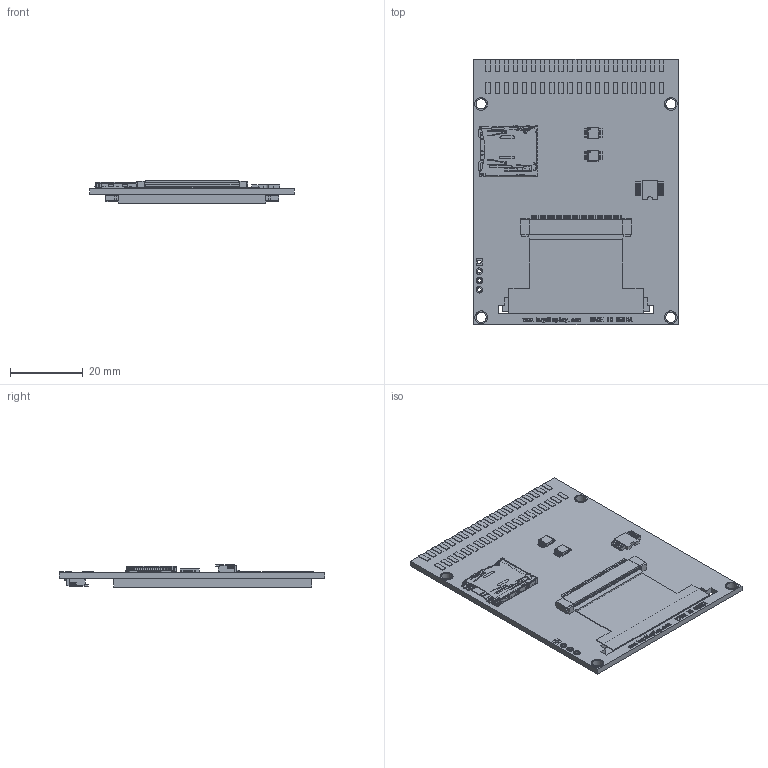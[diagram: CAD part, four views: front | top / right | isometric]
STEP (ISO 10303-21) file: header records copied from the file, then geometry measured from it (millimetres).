
FILE_DESCRIPTION(('HOOPS Exchange Step'),'2;1');
FILE_NAME('\\Server-1\e\公共文件夹\7.产品资料库\彩色-TFT\2.2寸\ER-TFTM022-1\3D\ER-TFTM022-1.step','2021-01-27T17:57:45+08:00',('Administrator'),('Unknown organisation'),'HOOPS Exchange 2018.2','glovius.exe','Unknown authorisation');
FILE_SCHEMA( ('AUTOMOTIVE_DESIGN { 1 0 10303 214 1 1 1 1 }') );
Length unit declared in the file: millimetre
Products named in the file (8): FLASH-1; SD卡座-1; 连接器_50-Pin-2; 零件8-1; 连接器_50-Pin - 副本-1; 零件1-2; Default; ER-TFTM022-1
Assembly tree (8 placements, depth 3):
  ER-TFTM022-1
    Default
      FLASH-1  x2
      SD卡座-1
      连接器_50-Pin-2
      零件8-1
      连接器_50-Pin - 副本-1
      零件1-2
Bounding box: 56 x 72.7 x 6.13 mm (x, y, z)
Volume: 12426.3 mm3; surface area: 19586.8 mm2
Topology: 242 solids, 242 shells, 7263 faces, 18228 edges, 11406 vertices
Faces by surface type: bspline 7263
Entity records: 690099 total; most frequent: CARTESIAN_POINT 459090, B_SPLINE_CURVE_WITH_KNOTS 49317, DEFINITIONAL_REPRESENTATION 35188, PCURVE 35188, ORIENTED_EDGE 35188, INTERSECTION_CURVE 17594, EDGE_CURVE 17594, VERTEX_POINT 11180
